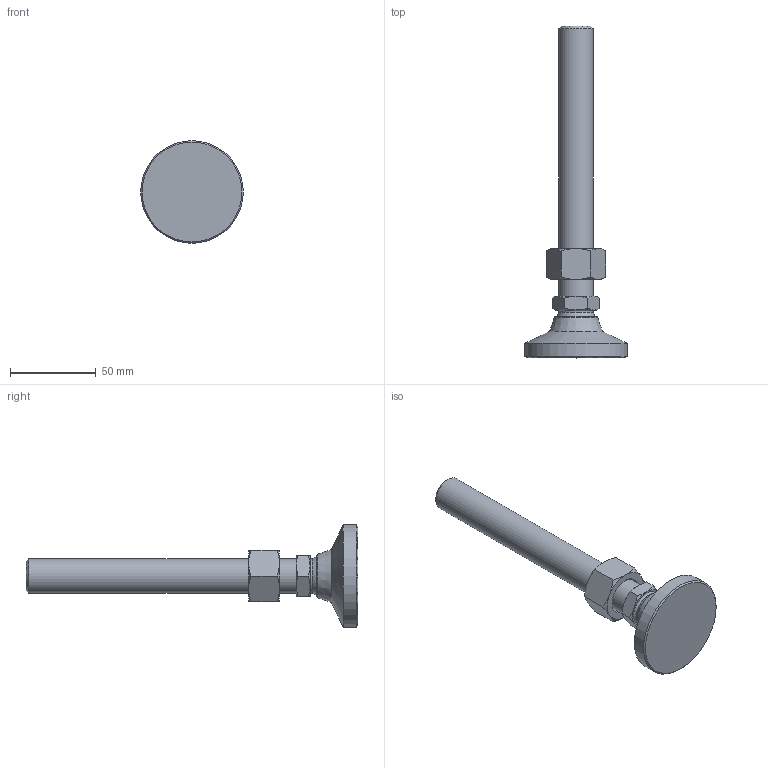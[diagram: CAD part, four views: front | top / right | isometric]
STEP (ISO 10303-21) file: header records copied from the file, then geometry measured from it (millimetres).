
FILE_DESCRIPTION( ( 'STEP AP214' ), ' ' );
FILE_NAME( 'O:/ganter_2015/teil_2/2_5/gn343_2/gn343_2_os/Levelling foot with threaded stud GN 343.2-60-M20-158-OS-(0).stp', '2015-10-26T09:08:54', ( '' ), ( '' ), ' ', 'PARTsolutions', ' ' );
FILE_SCHEMA( ( 'AUTOMOTIVE_DESIGN { 1 0 10303 214 1 1 1 1 }' ) );
Length unit declared in the file: millimetre
Products named in the file (4): Levelling foot with threaded stud GN 343.2-60-M20-158-OS-(0); _Levelling foot with threaded stud GN 343.2-60-M20-158-OS-(0)_foot; _Levelling foot with threaded stud GN 343.2-60-M20-158-OS-(0)_screw; _Stainless Steel-Levelling feet GN 343.2-60-M20-158-OS-(0)_nut
Assembly tree (3 placements, depth 2):
  Levelling foot with threaded stud GN 343.2-60-M20-158-OS-(0)
    _Levelling foot with threaded stud GN 343.2-60-M20-158-OS-(0)_foot
    _Levelling foot with threaded stud GN 343.2-60-M20-158-OS-(0)_screw
    _Stainless Steel-Levelling feet GN 343.2-60-M20-158-OS-(0)_nut
Bounding box: 60 x 194 x 60 mm (x, y, z)
Volume: 105470.2 mm3; surface area: 24951.2 mm2
Topology: 3 solids, 3 shells, 56 faces, 117 edges, 68 vertices
Faces by surface type: cone 30, plane 19, cylinder 3, torus 2, sphere 2
Full cylindrical faces by diameter (mm): 17.294 x1, 20 x1, 60 x1
Entity records: 2090 total; most frequent: CARTESIAN_POINT 522, DIRECTION 212, ORIENTED_EDGE 200, AXIS2_PLACEMENT_3D 100, EDGE_CURVE 100, EDGE_LOOP 72, VERTEX_POINT 66, FACE_OUTER_BOUND 61
